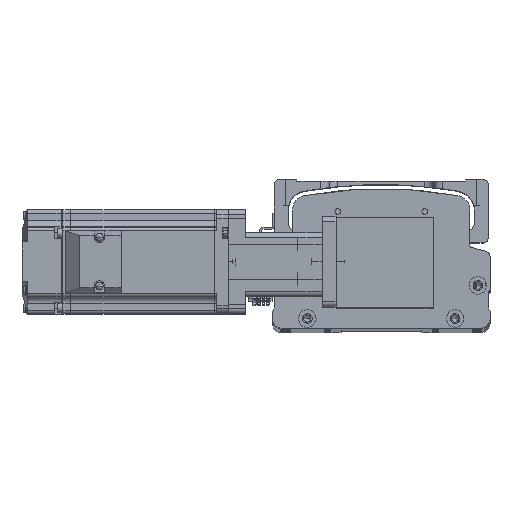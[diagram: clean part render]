
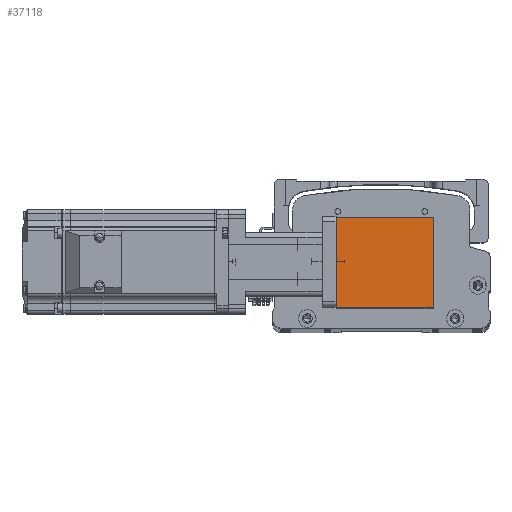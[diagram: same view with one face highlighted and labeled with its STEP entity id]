
A CAD part, top view. The second image highlights one B-rep face of the part: STEP entity #37118.
In plain terms, the highlighted planar face has unit normal (0, 0, 1) as drawn and (-1, 0, 0) by its records, which use the part's own axes.
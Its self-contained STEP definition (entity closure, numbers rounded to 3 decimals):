
#1305 = LINE ( 'NONE', #28738, #51471 ) ;
#1502 = LINE ( 'NONE', #3616, #38782 ) ;
#1532 = AXIS2_PLACEMENT_3D ( 'NONE', #48485, #58264, #29219 ) ;
#3254 = DIRECTION ( 'NONE',  ( 0., -1., 0. ) ) ;
#3616 = CARTESIAN_POINT ( 'NONE',  ( -31.5, 26., 56. ) ) ;
#4312 = EDGE_CURVE ( 'NONE', #9111, #24666, #32867, .T. ) ;
#9111 = VERTEX_POINT ( 'NONE', #35562 ) ;
#10124 = ORIENTED_EDGE ( 'NONE', *, *, #4312, .F. ) ;
#10616 = EDGE_LOOP ( 'NONE', ( #59916, #35049, #10124, #38354 ) ) ;
#13445 = DIRECTION ( 'NONE',  ( 0., 0., -1. ) ) ;
#17499 = EDGE_CURVE ( 'NONE', #41693, #24602, #1305, .T. ) ;
#19841 = FACE_OUTER_BOUND ( 'NONE', #10616, .T. ) ;
#19971 = VECTOR ( 'NONE', #3254, 1000. ) ;
#20415 = EDGE_CURVE ( 'NONE', #9111, #41693, #1502, .T. ) ;
#24103 = PLANE ( 'NONE',  #1532 ) ;
#24602 = VERTEX_POINT ( 'NONE', #61764 ) ;
#24666 = VERTEX_POINT ( 'NONE', #38229 ) ;
#26206 = CARTESIAN_POINT ( 'NONE',  ( -31.5, -26., 56. ) ) ;
#28738 = CARTESIAN_POINT ( 'NONE',  ( -31.5, -26., 0. ) ) ;
#29219 = DIRECTION ( 'NONE',  ( 0., 0., -1. ) ) ;
#32867 = LINE ( 'NONE', #41943, #19971 ) ;
#34824 = LINE ( 'NONE', #26206, #60638 ) ;
#35049 = ORIENTED_EDGE ( 'NONE', *, *, #38406, .F. ) ;
#35562 = CARTESIAN_POINT ( 'NONE',  ( -31.5, 26., 56. ) ) ;
#35717 = DIRECTION ( 'NONE',  ( 0., 0., -1. ) ) ;
#37118 = ADVANCED_FACE ( 'NONE', ( #19841 ), #24103, .F. ) ;
#38229 = CARTESIAN_POINT ( 'NONE',  ( -31.5, -26., 56. ) ) ;
#38354 = ORIENTED_EDGE ( 'NONE', *, *, #20415, .T. ) ;
#38406 = EDGE_CURVE ( 'NONE', #24666, #24602, #34824, .T. ) ;
#38782 = VECTOR ( 'NONE', #13445, 1000. ) ;
#41693 = VERTEX_POINT ( 'NONE', #52381 ) ;
#41943 = CARTESIAN_POINT ( 'NONE',  ( -31.5, -26., 56. ) ) ;
#48485 = CARTESIAN_POINT ( 'NONE',  ( -31.5, -26., 56. ) ) ;
#51471 = VECTOR ( 'NONE', #62632, 1000. ) ;
#52381 = CARTESIAN_POINT ( 'NONE',  ( -31.5, 26., 0. ) ) ;
#58264 = DIRECTION ( 'NONE',  ( 1., 0., 0. ) ) ;
#59916 = ORIENTED_EDGE ( 'NONE', *, *, #17499, .T. ) ;
#60638 = VECTOR ( 'NONE', #35717, 1000. ) ;
#61764 = CARTESIAN_POINT ( 'NONE',  ( -31.5, -26., 0. ) ) ;
#62632 = DIRECTION ( 'NONE',  ( 0., -1., 0. ) ) ;
